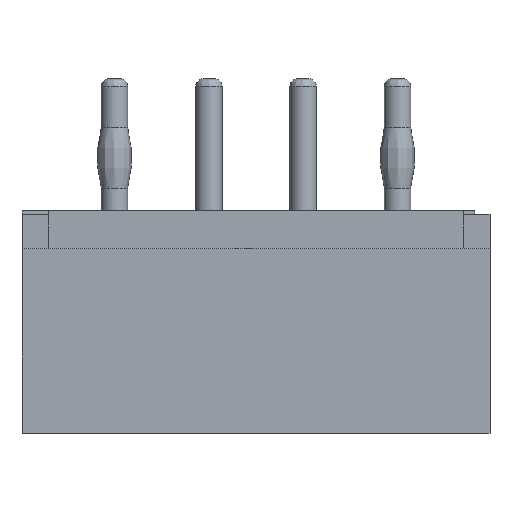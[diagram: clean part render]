
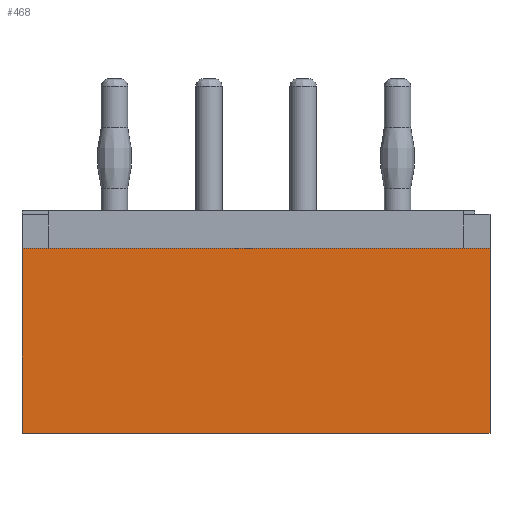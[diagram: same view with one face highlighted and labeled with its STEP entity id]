
A CAD part, front view. The second image highlights one B-rep face of the part: STEP entity #468.
In plain terms, the highlighted planar face has unit normal (0, -1, 0).
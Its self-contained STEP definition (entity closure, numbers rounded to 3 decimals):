
#60=PLANE('',#1347);
#120=FACE_OUTER_BOUND('',#598,.T.);
#229=LINE('',#1905,#373);
#239=LINE('',#1926,#383);
#268=LINE('',#1978,#412);
#269=LINE('',#1979,#413);
#373=VECTOR('',#1522,1.);
#383=VECTOR('',#1536,1.);
#412=VECTOR('',#1579,1.);
#413=VECTOR('',#1580,1.);
#468=ADVANCED_FACE('',(#120),#60,.F.);
#598=EDGE_LOOP('',(#813,#814,#815,#816));
#813=ORIENTED_EDGE('',*,*,#1203,.F.);
#814=ORIENTED_EDGE('',*,*,#1242,.T.);
#815=ORIENTED_EDGE('',*,*,#1213,.T.);
#816=ORIENTED_EDGE('',*,*,#1243,.T.);
#1076=VERTEX_POINT('',#1904);
#1077=VERTEX_POINT('',#1906);
#1085=VERTEX_POINT('',#1925);
#1086=VERTEX_POINT('',#1927);
#1203=EDGE_CURVE('',#1076,#1077,#229,.T.);
#1213=EDGE_CURVE('',#1086,#1085,#239,.T.);
#1242=EDGE_CURVE('',#1076,#1086,#268,.T.);
#1243=EDGE_CURVE('',#1085,#1077,#269,.T.);
#1347=AXIS2_PLACEMENT_3D('',#1980,#1581,#1582);
#1522=DIRECTION('',(0.,0.,-1.));
#1536=DIRECTION('',(0.,0.,-1.));
#1579=DIRECTION('',(-1.,0.,0.));
#1580=DIRECTION('',(1.,0.,0.));
#1581=DIRECTION('',(0.,1.,0.));
#1582=DIRECTION('',(-1.,0.,0.));
#1904=CARTESIAN_POINT('',(9.95,-3.1,8.1));
#1905=CARTESIAN_POINT('',(9.95,-3.1,9.1));
#1906=CARTESIAN_POINT('',(9.95,-3.1,3.2));
#1925=CARTESIAN_POINT('',(-2.45,-3.1,3.2));
#1926=CARTESIAN_POINT('',(-2.45,-3.1,9.1));
#1927=CARTESIAN_POINT('',(-2.45,-3.1,8.1));
#1978=CARTESIAN_POINT('',(120.31,-3.1,8.1));
#1979=CARTESIAN_POINT('',(-2.45,-3.1,3.2));
#1980=CARTESIAN_POINT('',(-2.45,-3.1,9.1));
